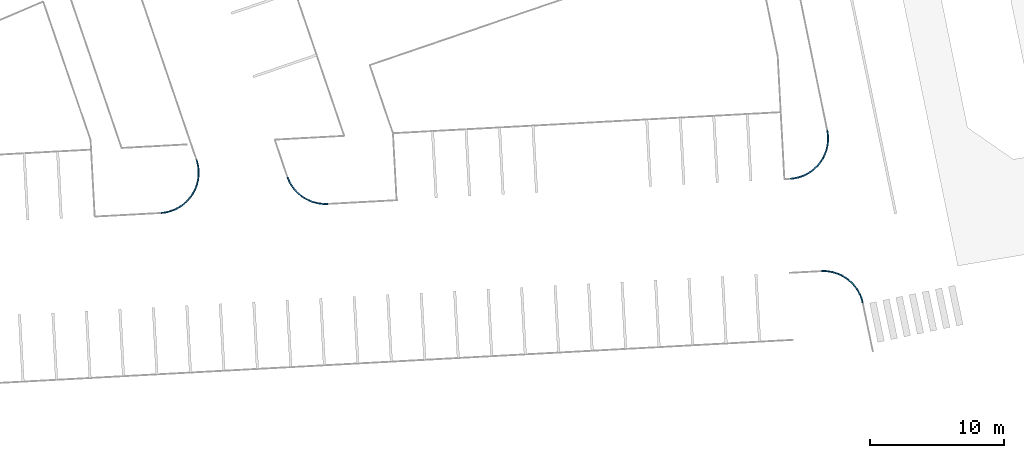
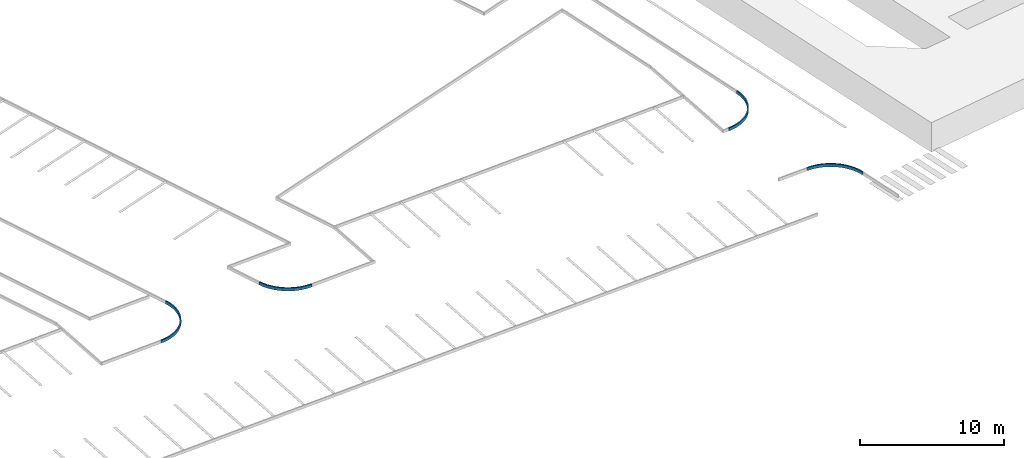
# One storey, part 92 of 112: 4 beams.
"""IFC2X3 building model written with IfcOpenShell, lengths in millimetres."""

from ifc_helpers import new_model, entity, si_unit, converted_unit, derived_unit, direction, frame, origin, place, context, subcontext, project, spatial, faceted_brep, material, type_object, element, save


model = new_model("IFC2X3")

# Units and contexts
model_context = context("Model", 3, precision=0.01, world=origin(), true_north=direction((6.123031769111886e-17, 1.0)))
body_context = subcontext(model_context, "Body", "Model", "MODEL_VIEW")
ifc_project = project(units=[si_unit("LENGTHUNIT", "METRE", prefix="MILLI"), si_unit("AREAUNIT", "SQUARE_METRE"), si_unit("VOLUMEUNIT", "CUBIC_METRE"), converted_unit("PLANEANGLEUNIT", "DEGREE", entity("IfcRatioMeasure", 0.017453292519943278), si_unit("PLANEANGLEUNIT", "RADIAN"), dimensions=[0, 0, 0, 0, 0, 0, 0]), si_unit("MASSUNIT", "GRAM", prefix="KILO"), derived_unit("MASSDENSITYUNIT", [(si_unit("MASSUNIT", "GRAM", prefix="KILO"), 1), (si_unit("LENGTHUNIT", "METRE"), -3)]), derived_unit("MOMENTOFINERTIAUNIT", [(si_unit("LENGTHUNIT", "METRE"), 4)]), si_unit("TIMEUNIT", "SECOND"), si_unit("FREQUENCYUNIT", "HERTZ"), si_unit("THERMODYNAMICTEMPERATUREUNIT", "DEGREE_CELSIUS"), derived_unit("THERMALTRANSMITTANCEUNIT", [(si_unit("MASSUNIT", "GRAM", prefix="KILO"), 1), (si_unit("THERMODYNAMICTEMPERATUREUNIT", "KELVIN"), -1), (si_unit("TIMEUNIT", "SECOND"), -3)]), derived_unit("THERMALCONDUCTANCEUNIT", [(si_unit("MASSUNIT", "GRAM", prefix="KILO"), 1), (si_unit("LENGTHUNIT", "METRE"), 1), (si_unit("THERMODYNAMICTEMPERATUREUNIT", "KELVIN"), -1), (si_unit("TIMEUNIT", "SECOND"), -3)]), derived_unit("VOLUMETRICFLOWRATEUNIT", [(si_unit("LENGTHUNIT", "METRE"), 3), (si_unit("TIMEUNIT", "SECOND"), -1)]), derived_unit("MASSFLOWRATEUNIT", [(si_unit("MASSUNIT", "GRAM", prefix="KILO"), 1), (si_unit("TIMEUNIT", "SECOND"), -1)]), derived_unit("ROTATIONALFREQUENCYUNIT", [(si_unit("TIMEUNIT", "SECOND"), -1)]), si_unit("ELECTRICCURRENTUNIT", "AMPERE"), si_unit("ELECTRICVOLTAGEUNIT", "VOLT"), si_unit("POWERUNIT", "WATT"), converted_unit("FORCEUNIT", "KIP", entity("IfcRatioMeasure", 2.088543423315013e-05), si_unit("FORCEUNIT", "NEWTON"), dimensions=[1, 1, -2, 0, 0, 0, 0]), si_unit("ILLUMINANCEUNIT", "LUX"), si_unit("LUMINOUSFLUXUNIT", "LUMEN"), si_unit("LUMINOUSINTENSITYUNIT", "CANDELA"), derived_unit("USERDEFINED", [(si_unit("MASSUNIT", "GRAM", prefix="KILO"), -1), (si_unit("LENGTHUNIT", "METRE"), -2), (si_unit("TIMEUNIT", "SECOND"), 3), (si_unit("LUMINOUSFLUXUNIT", "LUMEN"), 1)]), derived_unit("USERDEFINED", [(si_unit("MASSUNIT", "GRAM", prefix="KILO"), 1), (si_unit("LENGTHUNIT", "METRE"), 3), (si_unit("TIMEUNIT", "SECOND"), -3), (si_unit("ELECTRICCURRENTUNIT", "AMPERE"), -2)]), derived_unit("USERDEFINED", [(si_unit("LENGTHUNIT", "METRE"), 2), (si_unit("TIMEUNIT", "SECOND"), -2)]), derived_unit("SOUNDPOWERUNIT", [(si_unit("MASSUNIT", "GRAM", prefix="KILO"), 1), (si_unit("LENGTHUNIT", "METRE"), 2), (si_unit("TIMEUNIT", "SECOND"), -3)]), derived_unit("SOUNDPRESSUREUNIT", [(si_unit("MASSUNIT", "GRAM", prefix="KILO"), 1), (si_unit("LENGTHUNIT", "METRE"), -1), (si_unit("TIMEUNIT", "SECOND"), -2)]), derived_unit("LINEARVELOCITYUNIT", [(si_unit("LENGTHUNIT", "METRE"), 1), (si_unit("TIMEUNIT", "SECOND"), -1)]), si_unit("PRESSUREUNIT", "PASCAL"), derived_unit("USERDEFINED", [(si_unit("LENGTHUNIT", "METRE"), -2), (si_unit("MASSUNIT", "GRAM", prefix="KILO"), 1), (si_unit("TIMEUNIT", "SECOND"), -2)]), derived_unit("LINEARFORCEUNIT", [(si_unit("MASSUNIT", "GRAM", prefix="KILO"), 1), (si_unit("LENGTHUNIT", "METRE"), 1), (si_unit("TIMEUNIT", "SECOND"), -2), (si_unit("LENGTHUNIT", "METRE"), -1)]), derived_unit("PLANARFORCEUNIT", [(si_unit("MASSUNIT", "GRAM", prefix="KILO"), 1), (si_unit("LENGTHUNIT", "METRE"), 1), (si_unit("TIMEUNIT", "SECOND"), -2), (si_unit("LENGTHUNIT", "METRE"), -2)]), derived_unit("SPECIFICHEATCAPACITYUNIT", [(si_unit("LENGTHUNIT", "METRE"), 2), (si_unit("TIMEUNIT", "SECOND"), -2), (si_unit("THERMODYNAMICTEMPERATUREUNIT", "KELVIN"), -1)]), derived_unit("VAPORPERMEABILITYUNIT", [(si_unit("TIMEUNIT", "SECOND"), 1), (si_unit("LENGTHUNIT", "METRE"), -1)]), derived_unit("DYNAMICVISCOSITYUNIT", [(si_unit("MASSUNIT", "GRAM", prefix="KILO"), 1), (si_unit("LENGTHUNIT", "METRE"), -1), (si_unit("TIMEUNIT", "SECOND"), -1)]), derived_unit("THERMALEXPANSIONCOEFFICIENTUNIT", [(si_unit("THERMODYNAMICTEMPERATUREUNIT", "KELVIN"), -1)])], contexts=[model_context])

# Site, building, storey
site_placement = place(None, frame((0.0, 0.0, 0.0), z_axis=(0.0, 0.0, 1.0), x_axis=(0.8191520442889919, 0.5735764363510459, 0.0)))
site = spatial("IfcSite", under=ifc_project, at=site_placement, Name="Default", CompositionType="ELEMENT")
building_placement = place(site_placement, origin())
building = spatial("IfcBuilding", under=site, at=building_placement, CompositionType="ELEMENT")
storey_placement = place(building_placement, frame((0.0, 0.0, -3600.0)))
storey = spatial("IfcBuildingStorey", under=building, at=storey_placement, Name="0.UG -3.60", CompositionType="ELEMENT", Elevation=-3600.0000000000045)

# Beams
ifc_material = material(Name="Paveta_bordur")
beam_type_1 = type_object("IfcBeamType", Name="Beam-158", PredefinedType="NOTDEFINED")
beam_1_placement = place(storey_placement, frame((16848.746366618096, 47775.29234315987, 1860.0)))
element("IfcBeam", 1, at=beam_1_placement, inside=storey, type_object=beam_type_1, material=ifc_material, Name="Beam-158:Beam-158", ObjectType="Beam-158:Beam-158", context=body_context, shape_type="Brep", body=[
    faceted_brep([(54.42806388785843, 546.5185222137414, 250.0), (54.42806388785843, 546.5185222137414, 0.0), (1.5952722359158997, 461.61448151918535, 0.0), (1.5952722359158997, 461.61448151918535, 250.0), (4543.230991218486, 2204.890208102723, 0.0), (4447.157693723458, 2232.637667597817, 0.0), (4447.157693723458, 2232.637667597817, 250.0), (4543.230991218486, 2204.890208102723, 250.0), (3466.065182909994, 628.6616764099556, 0.0), (3143.4404317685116, 412.96141348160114, 0.0), (2796.036812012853, 239.97569598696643, 0.0), (2614.787420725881, 170.40436005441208, 0.0), (2240.862396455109, 66.51302403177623, 0.0), (1856.771810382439, 10.945451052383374, 0.0), (1468.734330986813, 4.60131511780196, 0.0), (1083.032529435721, 47.583331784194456, 0.0), (705.911160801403, 139.19559513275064, 0.0), (343.47605754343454, 277.95484492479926, 0.0), (216.93560270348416, 452.434753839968, 0.0), (385.0996431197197, 368.88051304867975, 0.0), (558.2388245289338, 296.19434170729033, 0.0), (735.6516282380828, 234.6707468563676, 0.0), (916.6192198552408, 184.5590074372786, 0.0), (1100.4083618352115, 146.06216427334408, 0.0), (1286.2743843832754, 119.33619739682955, 0.0), (1473.464202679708, 104.48939405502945, 0.0), (1661.2193681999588, 101.5819099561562, 0.0), (1848.7791417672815, 110.62552553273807, 0.0), (2035.3835758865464, 131.583598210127, 0.0), (2220.276593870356, 164.37121087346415, 0.0), (2402.709053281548, 208.85551593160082, 0.0), (2581.9417812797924, 264.8562735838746, 0.0), (2757.2485695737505, 332.1465821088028, 0.0), (2927.919116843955, 410.45379721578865, 0.0), (3093.261906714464, 499.46063673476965, 0.0), (3252.6070096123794, 598.8064661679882, 0.0), (3405.3087971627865, 708.0887598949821, 0.0), (3550.7485581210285, 826.8647321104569, 0.0), (3688.337005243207, 954.6531308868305, 0.0), (3817.5166629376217, 1090.9361880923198, 0.0), (3937.7641260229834, 1235.1617172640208, 0.0), (4048.592180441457, 1386.7453509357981, 0.0), (4149.551777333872, 1545.07290835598, 0.0), (4240.233852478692, 1709.5028840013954, 0.0), (4320.2709837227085, 1879.3690468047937, 0.0), (4389.338879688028, 2053.983139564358, 0.0), (4412.04303681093, 1839.64637982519, 0.0), (4235.536738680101, 1494.0181688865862, 0.0), (4016.5698449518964, 1173.601513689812, 0.0), (3758.6875675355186, 883.5841616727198, 0.0), (343.47605754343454, 277.95484492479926, 250.0), (1083.032529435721, 47.583331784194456, 250.0), (705.911160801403, 139.19559513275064, 250.0), (1856.7718103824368, 10.945451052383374, 250.0), (2240.8623964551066, 66.51302403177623, 250.0), (1468.734330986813, 4.601315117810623, 250.0), (2614.787420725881, 170.40436005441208, 250.0), (2796.036812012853, 239.97569598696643, 250.0), (3143.4404317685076, 412.96141348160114, 250.0), (3466.065182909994, 628.6616764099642, 250.0), (3758.687567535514, 883.5841616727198, 250.0), (4412.0430368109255, 1839.64637982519, 250.0), (4235.536738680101, 1494.0181688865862, 250.0), (4016.5698449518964, 1173.601513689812, 250.0), (3550.7485581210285, 826.8647321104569, 250.0), (3405.3087971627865, 708.0887598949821, 250.0), (3252.6070096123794, 598.8064661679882, 250.0), (3093.261906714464, 499.46063673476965, 250.0), (2927.919116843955, 410.45379721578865, 250.0), (2757.2485695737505, 332.1465821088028, 250.0), (2581.9417812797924, 264.8562735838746, 250.0), (2402.709053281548, 208.85551593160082, 250.0), (2220.276593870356, 164.37121087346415, 250.0), (2035.3835758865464, 131.583598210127, 250.0), (1848.7791417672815, 110.62552553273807, 250.0), (1661.2193681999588, 101.5819099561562, 250.0), (1473.464202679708, 104.48939405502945, 250.0), (1286.2743843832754, 119.33619739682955, 250.0), (1100.4083618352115, 146.06216427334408, 250.0), (916.6192198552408, 184.5590074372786, 250.0), (735.6516282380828, 234.6707468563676, 250.0), (558.2388245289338, 296.19434170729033, 250.0), (385.0996431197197, 368.88051304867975, 250.0), (216.93560270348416, 452.434753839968, 250.0), (4389.338879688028, 2053.983139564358, 250.0), (4320.2709837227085, 1879.3690468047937, 250.0), (4240.233852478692, 1709.5028840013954, 250.0), (4149.551777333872, 1545.07290835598, 250.0), (4048.592180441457, 1386.7453509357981, 250.0), (3937.7641260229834, 1235.1617172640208, 250.0), (3817.5166629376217, 1090.9361880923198, 250.0), (3688.337005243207, 954.6531308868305, 250.0)], [[[0, 1, 2, 3]], [[4, 5, 6, 7]], [[8, 9, 10, 11, 12, 13, 14, 15, 16, 17, 2, 1, 18, 19, 20, 21, 22, 23, 24, 25, 26, 27, 28, 29, 30, 31, 32, 33, 34, 35, 36, 37, 38, 39, 40, 41, 42, 43, 44, 45, 5, 4, 46, 47, 48, 49]], [[50, 3, 2, 17]], [[51, 52, 16, 15]], [[52, 50, 17, 16]], [[53, 13, 12, 54]], [[55, 14, 13, 53]], [[15, 14, 55, 51]], [[54, 12, 11, 56]], [[11, 10, 57, 56]], [[58, 9, 8, 59]], [[57, 10, 9, 58]], [[59, 8, 49, 60]], [[47, 46, 61, 62]], [[63, 48, 47, 62]], [[60, 49, 48, 63]], [[61, 46, 4, 7]], [[64, 65, 66, 67, 68, 69, 70, 71, 72, 73, 74, 75, 76, 77, 78, 79, 80, 81, 82, 83, 0, 3, 50, 52, 51, 55, 53, 54, 56, 57, 58, 59, 60, 63, 62, 61, 7, 6, 84, 85, 86, 87, 88, 89, 90, 91]], [[1, 0, 83, 18]], [[18, 83, 82, 19]], [[81, 20, 19, 82]], [[23, 22, 79, 78]], [[80, 79, 22, 21]], [[80, 21, 20, 81]], [[28, 27, 74, 73]], [[29, 28, 73, 72]], [[30, 29, 72, 71]], [[25, 24, 77, 76]], [[76, 75, 26, 25]], [[27, 26, 75, 74]], [[78, 77, 24, 23]], [[31, 30, 71, 70]], [[70, 69, 32, 31]], [[35, 66, 65, 36]], [[36, 65, 64, 37]], [[33, 32, 69, 68]], [[34, 33, 68, 67]], [[34, 67, 66, 35]], [[38, 37, 64, 91]], [[43, 42, 87, 86]], [[44, 43, 86, 85]], [[45, 44, 85, 84]], [[40, 39, 90, 89]], [[89, 88, 41, 40]], [[42, 41, 88, 87]], [[91, 90, 39, 38]], [[5, 45, 84, 6]]]),
])
beam_type_2 = type_object("IfcBeamType", Name="Beam-176", PredefinedType="NOTDEFINED")
beam_2_placement = place(storey_placement, frame((54711.81570470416, 12722.13853415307, 1860.0)))
element("IfcBeam", 2, at=beam_2_placement, inside=storey, type_object=beam_type_2, material=ifc_material, Name="Beam-176 236697:Beam-176 236697", ObjectType="Beam-176 236697:Beam-176 236697", context=body_context, shape_type="Brep", body=[
    faceted_brep([(1.5952722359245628, 3709.3132162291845, 0.0), (1.5952722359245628, 3709.3132162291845, 250.0), (54.42806388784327, 3794.2172569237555, 250.0), (54.42806388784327, 3794.2172569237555, 0.0), (1245.736201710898, 1.5952722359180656, 250.0), (1153.8441268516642, 41.039493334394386, 250.0), (1153.8441268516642, 41.039493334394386, 0.0), (1245.736201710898, 1.5952722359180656, 0.0), (159.86193615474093, 3603.5981536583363, 250.0), (159.86193615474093, 3603.5981536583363, 0.0), (589.300390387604, 3228.5052946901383, 0.0), (589.300390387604, 3228.5052946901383, 250.0), (454.32734891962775, 3362.6928106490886, 250.0), (454.32734891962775, 3362.6928106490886, 0.0), (310.98230705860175, 3487.897484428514, 250.0), (310.98230705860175, 3487.897484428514, 0.0), (938.5574002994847, 2777.804085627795, 250.0), (938.5574002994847, 2777.804085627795, 0.0), (1034.8068337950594, 2613.608903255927, 0.0), (1034.8068337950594, 2613.608903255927, 250.0), (1120.2680307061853, 2443.5489279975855, 0.0), (1120.2680307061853, 2443.5489279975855, 250.0), (831.92036688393, 2935.4510154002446, 250.0), (715.3396084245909, 3085.8934898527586, 250.0), (715.3396084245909, 3085.8934898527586, 0.0), (831.92036688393, 2935.4510154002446, 0.0), (1194.5852602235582, 2268.3320316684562, 0.0), (1194.5852602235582, 2268.3320316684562, 250.0), (1257.4491781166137, 2088.6875516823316, 0.0), (1257.4491781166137, 2088.6875516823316, 250.0), (1389.8748951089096, 1340.9997874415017, 250.0), (1374.9490652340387, 1530.7396909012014, 250.0), (1374.9490652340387, 1530.7396909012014, 0.0), (1389.8748951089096, 1340.9997874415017, 0.0), (1347.8191623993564, 1719.1222265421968, 250.0), (1308.5981143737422, 1905.3632551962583, 250.0), (1308.5981143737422, 1905.3632551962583, 0.0), (1347.8191623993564, 1719.1222265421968, 0.0), (1392.5345235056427, 1150.6923053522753, 250.0), (1392.5345235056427, 1150.6923053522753, 0.0), (1281.0549563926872, 399.5958605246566, 250.0), (1327.060846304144, 584.2779372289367, 250.0), (1327.060846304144, 584.2779372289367, 0.0), (1281.0549563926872, 399.5958605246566, 0.0), (1223.2358261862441, 218.26478336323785, 250.0), (1223.2358261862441, 218.26478336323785, 0.0), (1361.0619971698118, 771.5422774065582, 250.0), (1382.916879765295, 960.6093963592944, 250.0), (1382.916879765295, 960.6093963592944, 0.0), (1361.0619971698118, 771.5422774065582, 0.0), (1474.336222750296, 1541.7937815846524, 250.0), (1405.736087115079, 1929.116449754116, 250.0), (1287.8583904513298, 2304.389252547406, 250.0), (1122.6637461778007, 2661.370424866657, 250.0), (912.8997719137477, 2994.122439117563, 250.0), (662.0553894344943, 3297.1107617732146, 250.0), (374.3027948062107, 3565.2959070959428, 250.0), (1377.2592627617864, 372.3060925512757, 250.0), (1459.9784066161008, 756.8608625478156, 250.0), (1492.5177982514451, 1148.863433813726, 250.0), (662.0553894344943, 3297.1107617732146, 0.0), (374.3027948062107, 3565.2959070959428, 0.0), (1122.6637461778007, 2661.370424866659, 0.0), (912.8997719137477, 2994.122439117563, 0.0), (1287.8583904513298, 2304.3892525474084, 0.0), (1405.736087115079, 1929.1164497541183, 0.0), (1474.336222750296, 1541.7937815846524, 0.0), (1492.5177982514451, 1148.863433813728, 0.0), (1377.2592627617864, 372.3060925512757, 0.0), (1459.9784066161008, 756.8608625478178, 0.0)], [[[0, 1, 2, 3]], [[4, 5, 6, 7]], [[8, 1, 0, 9]], [[10, 11, 12, 13]], [[14, 8, 9, 15]], [[12, 14, 15, 13]], [[16, 17, 18, 19]], [[19, 18, 20, 21]], [[22, 23, 24, 25]], [[22, 25, 17, 16]], [[11, 10, 24, 23]], [[21, 20, 26, 27]], [[26, 28, 29, 27]], [[30, 31, 32, 33]], [[34, 35, 36, 37]], [[34, 37, 32, 31]], [[38, 30, 33, 39]], [[40, 41, 42, 43]], [[44, 40, 43, 45]], [[46, 47, 48, 49]], [[41, 46, 49, 42]], [[38, 39, 48, 47]], [[5, 44, 45, 6]], [[29, 28, 36, 35]], [[50, 51, 52, 53, 54, 55, 56, 2, 1, 8, 14, 12, 11, 23, 22, 16, 19, 21, 27, 29, 35, 34, 31, 30, 38, 47, 46, 41, 40, 44, 5, 4, 57, 58, 59]], [[56, 55, 60, 61]], [[2, 56, 61, 3]], [[62, 63, 54, 53]], [[54, 63, 60, 55]], [[64, 62, 53, 52]], [[52, 51, 65, 64]], [[66, 65, 51, 50]], [[59, 67, 66, 50]], [[68, 69, 58, 57]], [[59, 58, 69, 67]], [[7, 68, 57, 4]], [[67, 69, 68, 7, 6, 45, 43, 42, 49, 48, 39, 33, 32, 37, 36, 28, 26, 20, 18, 17, 25, 24, 10, 13, 15, 9, 0, 3, 61, 60, 63, 62, 64, 65, 66]]]),
])
beam_type_3 = type_object("IfcBeamType", Name="Beam-176", PredefinedType="NOTDEFINED")
beam_3_placement = place(storey_placement, frame((56754.68248851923, 22943.24315575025, 1860.0)))
element("IfcBeam", 3, at=beam_3_placement, inside=storey, type_object=beam_type_3, material=ifc_material, Name="Beam-176 236995:Beam-176 236995", ObjectType="Beam-176 236995:Beam-176 236995", context=body_context, shape_type="Brep", body=[
    faceted_brep([(4320.8427844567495, 1880.682819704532, 0.0), (4320.8427844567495, 1880.682819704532, 250.0), (4412.634220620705, 1841.0049638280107, 250.0), (4412.634220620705, 1841.0049638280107, 0.0), (1.5952722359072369, 461.6063268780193, 0.0), (1.5952722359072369, 461.6063268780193, 250.0), (54.42806388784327, 546.5103675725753, 250.0), (54.42806388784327, 546.5103675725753, 0.0), (4240.864358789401, 1710.7300807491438, 0.0), (4240.864358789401, 1710.7300807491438, 250.0), (4150.232387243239, 1546.2116082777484, 0.0), (4150.232387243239, 1546.2116082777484, 250.0), (4049.314297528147, 1387.794370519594, 0.0), (4049.314297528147, 1387.794370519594, 250.0), (3689.132990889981, 955.4332148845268, 250.0), (3818.2963186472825, 1091.805194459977, 250.0), (3818.2963186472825, 1091.805194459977, 0.0), (3689.132990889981, 955.4332148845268, 0.0), (3938.5192179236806, 1236.1206009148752, 0.0), (3938.5192179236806, 1236.1206009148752, 250.0), (2928.6830913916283, 410.82619302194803, 250.0), (3094.04625683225, 499.9076476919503, 250.0), (3094.04625683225, 499.9076476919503, 0.0), (2928.6830913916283, 410.82619302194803, 0.0), (2757.986045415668, 332.4488969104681, 250.0), (2757.986045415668, 332.4488969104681, 0.0), (3406.113717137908, 708.6965341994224, 250.0), (3551.5528709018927, 827.5575227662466, 250.0), (3551.5528709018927, 827.5575227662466, 0.0), (3406.113717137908, 708.6965341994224, 0.0), (3253.4051490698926, 599.3321191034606, 0.0), (3253.4051490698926, 599.3321191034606, 250.0), (2582.6471354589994, 265.0935058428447, 250.0), (2582.6471354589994, 265.0935058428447, 0.0), (2403.3771964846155, 209.03308280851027, 0.0), (2403.3771964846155, 209.03308280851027, 250.0), (1849.3108737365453, 110.66005525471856, 250.0), (1849.3108737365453, 110.66005525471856, 0.0), (1661.6994016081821, 101.58164259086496, 0.0), (1661.6994016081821, 101.58164259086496, 250.0), (1473.8904804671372, 104.4610853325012, 0.0), (1473.8904804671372, 104.4610853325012, 250.0), (2220.903000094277, 164.4949002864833, 250.0), (2220.903000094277, 164.4949002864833, 0.0), (2035.9643081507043, 131.65951886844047, 250.0), (2035.9643081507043, 131.65951886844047, 0.0), (1286.6454994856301, 119.2867100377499, 250.0), (1286.6454994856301, 119.2867100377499, 0.0), (385.1966511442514, 368.8279525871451, 250.0), (558.3882800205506, 296.1289722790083, 250.0), (558.3882800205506, 296.1289722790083, 0.0), (385.1966511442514, 368.8279525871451, 0.0), (216.9825956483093, 452.4013549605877, 250.0), (216.9825956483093, 452.4013549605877, 0.0), (916.8784059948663, 184.48790237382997, 250.0), (1100.7235615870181, 145.99841269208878, 250.0), (1100.7235615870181, 145.99841269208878, 0.0), (916.8784059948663, 184.48790237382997, 0.0), (735.8553525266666, 234.59914027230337, 0.0), (735.8553525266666, 234.59914027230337, 250.0), (1857.3215671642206, 10.981427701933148, 250.0), (2050.302236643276, 32.692737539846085, 250.0), (2241.5100367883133, 66.64118273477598, 250.0), (2430.169799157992, 112.68913415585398, 250.0), (2615.516685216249, 170.64991051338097, 250.0), (2796.7992870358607, 240.28853517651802, 250.0), (2973.2826735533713, 321.32268878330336, 250.0), (3144.25137002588, 413.4238537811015, 250.0), (3309.012258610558, 516.2186462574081, 250.0), (3466.897388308, 629.2903296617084, 250.0), (3617.266682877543, 752.1805042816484, 250.0), (3759.5105357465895, 884.3909656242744, 250.0), (3893.0522813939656, 1025.385724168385, 250.0), (4017.350533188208, 1174.5931782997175, 250.0), (4131.901378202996, 1331.4084316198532, 250.0), (4236.2404201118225, 1495.1957452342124, 250.0), (4329.944661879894, 1665.2911150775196, 250.0), (169.66012710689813, 364.3071782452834, 250.0), (343.5763539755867, 277.9007791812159, 250.0), (522.6388855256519, 202.73742665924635, 250.0), (706.1217909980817, 139.121837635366, 250.0), (893.2812191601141, 87.31191370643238, 250.0), (1083.3584139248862, 47.51769556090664, 250.0), (1275.5827903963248, 19.90051146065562, 250.0), (1469.1750588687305, 4.57232320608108, 250.0), (1663.3503841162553, 1.5952722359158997, 250.0), (4329.944661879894, 1665.2911150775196, 0.0), (4236.2404201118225, 1495.1957452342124, 0.0), (4131.901378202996, 1331.4084316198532, 0.0), (3759.5105357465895, 884.3909656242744, 0.0), (3893.0522813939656, 1025.385724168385, 0.0), (4017.350533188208, 1174.5931782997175, 0.0), (2973.28267355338, 321.32268878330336, 0.0), (3144.25137002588, 413.4238537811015, 0.0), (2796.7992870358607, 240.28853517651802, 0.0), (3466.897388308, 629.2903296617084, 0.0), (3617.266682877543, 752.1805042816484, 0.0), (3309.0122586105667, 516.2186462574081, 0.0), (2615.516685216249, 170.64991051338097, 0.0), (2430.169799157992, 112.68913415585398, 0.0), (1663.3503841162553, 1.5952722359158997, 0.0), (1857.3215671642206, 10.981427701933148, 0.0), (1469.1750588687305, 4.57232320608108, 0.0), (2241.5100367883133, 66.64118273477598, 0.0), (2050.302236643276, 32.692737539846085, 0.0), (1275.5827903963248, 19.90051146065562, 0.0), (343.5763539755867, 277.9007791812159, 0.0), (522.6388855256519, 202.73742665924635, 0.0), (169.66012710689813, 364.3071782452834, 0.0), (893.2812191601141, 87.3119137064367, 0.0), (1083.3584139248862, 47.51769556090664, 0.0), (706.1217909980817, 139.121837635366, 0.0)], [[[0, 1, 2, 3]], [[4, 5, 6, 7]], [[1, 0, 8, 9]], [[9, 8, 10, 11]], [[11, 10, 12, 13]], [[14, 15, 16, 17]], [[18, 16, 15, 19]], [[19, 13, 12, 18]], [[20, 21, 22, 23]], [[24, 20, 23, 25]], [[26, 27, 28, 29]], [[30, 31, 26, 29]], [[31, 30, 22, 21]], [[28, 27, 14, 17]], [[32, 24, 25, 33]], [[33, 34, 35, 32]], [[36, 37, 38, 39]], [[39, 38, 40, 41]], [[42, 35, 34, 43]], [[44, 42, 43, 45]], [[44, 45, 37, 36]], [[46, 41, 40, 47]], [[48, 49, 50, 51]], [[52, 48, 51, 53]], [[54, 55, 56, 57]], [[58, 59, 54, 57]], [[49, 59, 58, 50]], [[55, 46, 47, 56]], [[6, 52, 53, 7]], [[60, 61, 62, 63, 64, 65, 66, 67, 68, 69, 70, 71, 72, 73, 74, 75, 76, 2, 1, 9, 11, 13, 19, 15, 14, 27, 26, 31, 21, 20, 24, 32, 35, 42, 44, 36, 39, 41, 46, 55, 54, 59, 49, 48, 52, 6, 5, 77, 78, 79, 80, 81, 82, 83, 84, 85]], [[76, 86, 3, 2]], [[75, 87, 86, 76]], [[74, 88, 87, 75]], [[89, 90, 72, 71]], [[73, 72, 90, 91]], [[91, 88, 74, 73]], [[92, 93, 67, 66]], [[94, 92, 66, 65]], [[95, 96, 70, 69]], [[69, 68, 97, 95]], [[67, 93, 97, 68]], [[71, 70, 96, 89]], [[98, 94, 65, 64]], [[64, 63, 99, 98]], [[85, 100, 101, 60]], [[84, 102, 100, 85]], [[103, 99, 63, 62]], [[104, 103, 62, 61]], [[60, 101, 104, 61]], [[105, 102, 84, 83]], [[106, 107, 79, 78]], [[108, 106, 78, 77]], [[109, 110, 82, 81]], [[81, 80, 111, 109]], [[107, 111, 80, 79]], [[110, 105, 83, 82]], [[4, 108, 77, 5]], [[100, 102, 105, 110, 109, 111, 107, 106, 108, 4, 7, 53, 51, 50, 58, 57, 56, 47, 40, 38, 37, 45, 43, 34, 33, 25, 23, 22, 30, 29, 28, 17, 16, 18, 12, 10, 8, 0, 3, 86, 87, 88, 91, 90, 89, 96, 95, 97, 93, 92, 94, 98, 99, 103, 104, 101]]]),
])
beam_type_4 = type_object("IfcBeamType", Name="Beam-159", PredefinedType="NOTDEFINED")
beam_4_placement = place(storey_placement, frame((25998.93193230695, 41646.98815472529, 1860.0)))
element("IfcBeam", 4, at=beam_4_placement, inside=storey, type_object=beam_type_4, material=ifc_material, Name="Beam-159:Beam-159", ObjectType="Beam-159:Beam-159", context=body_context, shape_type="Brep", body=[
    faceted_brep([(216.300856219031, 3409.718568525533, 250.0), (216.300856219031, 3409.718568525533, 0.0), (120.22755872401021, 3437.4660280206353, 0.0), (120.22755872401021, 3437.4660280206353, 250.0), (1439.0629869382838, 1.5952722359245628, 0.0), (1491.8957785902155, 86.49931293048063, 0.0), (1491.8957785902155, 86.49931293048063, 250.0), (1439.0629869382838, 1.5952722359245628, 250.0), (611.5079435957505, 759.776259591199, 0.0), (404.6867209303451, 1073.8131888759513, 0.0), (238.08022209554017, 1410.9133010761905, 0.0), (170.67384939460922, 1586.5224633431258, 0.0), (68.93578797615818, 1948.521880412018, 0.0), (12.515727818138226, 2320.2892645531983, 0.0), (2.2712308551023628, 2696.173902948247, 0.0), (38.35800926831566, 3070.4625021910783, 0.0), (169.26541524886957, 3224.571793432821, 0.0), (134.31152446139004, 3036.7690071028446, 0.0), (111.58575386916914, 2847.0977114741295, 0.0), (101.18339805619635, 2656.3532435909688, 0.0), (103.14807658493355, 2465.335440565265, 0.0), (117.47155108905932, 2274.8452856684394, 0.0), (144.0937598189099, 2085.6815496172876, 0.0), (182.90306949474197, 1898.6374411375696, 0.0), (233.73674341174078, 1714.4972808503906, 0.0), (296.3816238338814, 1534.0332124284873, 0.0), (370.57502581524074, 1358.0019648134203, 0.0), (456.0058387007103, 1187.1416790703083, 0.0), (552.3158306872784, 1022.1688131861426, 0.0), (659.1011509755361, 863.7751377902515, 0.0), (775.9140232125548, 712.6248353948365, 0.0), (902.2646231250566, 569.3517153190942, 0.0), (1037.6231324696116, 434.5565559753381, 0.0), (1181.4219606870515, 308.8045856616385, 0.0), (1333.0581249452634, 192.62311242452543, 0.0), (1132.6567010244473, 219.5617812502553, 0.0), (855.4002917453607, 473.5757466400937, 0.0), (2.2712308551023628, 2696.173902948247, 250.0), (38.35800926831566, 3070.4625021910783, 250.0), (12.515727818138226, 2320.2892645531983, 250.0), (68.93578797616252, 1948.521880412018, 250.0), (170.67384939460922, 1586.5224633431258, 250.0), (238.08022209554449, 1410.9133010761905, 250.0), (404.6867209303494, 1073.8131888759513, 250.0), (611.5079435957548, 759.776259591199, 250.0), (855.4002917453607, 473.5757466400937, 250.0), (1132.6567010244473, 219.5617812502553, 250.0), (659.1011509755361, 863.7751377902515, 250.0), (552.3158306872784, 1022.1688131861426, 250.0), (456.0058387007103, 1187.1416790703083, 250.0), (370.57502581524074, 1358.0019648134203, 250.0), (296.3816238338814, 1534.0332124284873, 250.0), (233.73674341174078, 1714.4972808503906, 250.0), (182.90306949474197, 1898.6374411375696, 250.0), (144.0937598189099, 2085.6815496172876, 250.0), (117.47155108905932, 2274.8452856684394, 250.0), (103.14807658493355, 2465.335440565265, 250.0), (101.18339805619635, 2656.3532435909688, 250.0), (111.58575386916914, 2847.0977114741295, 250.0), (134.31152446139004, 3036.7690071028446, 250.0), (169.26541524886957, 3224.571793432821, 250.0), (1333.0581249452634, 192.62311242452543, 250.0), (1181.4219606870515, 308.8045856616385, 250.0), (1037.6231324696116, 434.5565559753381, 250.0), (902.2646231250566, 569.3517153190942, 250.0), (775.9140232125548, 712.6248353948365, 250.0)], [[[0, 1, 2, 3]], [[4, 5, 6, 7]], [[8, 9, 10, 11, 12, 13, 14, 15, 2, 1, 16, 17, 18, 19, 20, 21, 22, 23, 24, 25, 26, 27, 28, 29, 30, 31, 32, 33, 34, 5, 4, 35, 36]], [[15, 14, 37, 38]], [[2, 15, 38, 3]], [[39, 13, 12, 40]], [[13, 39, 37, 14]], [[40, 12, 11, 41]], [[11, 10, 42, 41]], [[42, 10, 9, 43]], [[8, 44, 43, 9]], [[45, 36, 35, 46]], [[8, 36, 45, 44]], [[46, 35, 4, 7]], [[47, 48, 49, 50, 51, 52, 53, 54, 55, 56, 57, 58, 59, 60, 0, 3, 38, 37, 39, 40, 41, 42, 43, 44, 45, 46, 7, 6, 61, 62, 63, 64, 65]], [[16, 1, 0, 60]], [[20, 19, 57, 56]], [[17, 16, 60, 59]], [[53, 52, 24, 23]], [[22, 21, 55, 54]], [[23, 22, 54, 53]], [[56, 55, 21, 20]], [[25, 24, 52, 51]], [[57, 19, 18, 58]], [[59, 58, 18, 17]], [[29, 28, 48, 47]], [[27, 26, 50, 49]], [[27, 49, 48, 28]], [[30, 29, 47, 65]], [[62, 61, 34, 33]], [[32, 31, 64, 63]], [[33, 32, 63, 62]], [[65, 64, 31, 30]], [[5, 34, 61, 6]], [[50, 26, 25, 51]]]),
])

save(model, "model.ifc")
